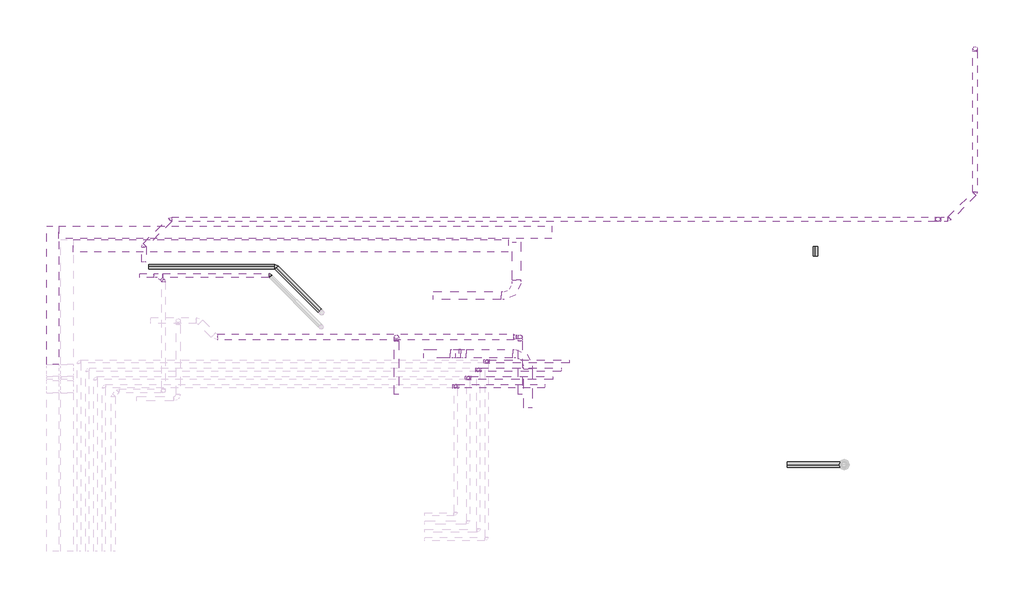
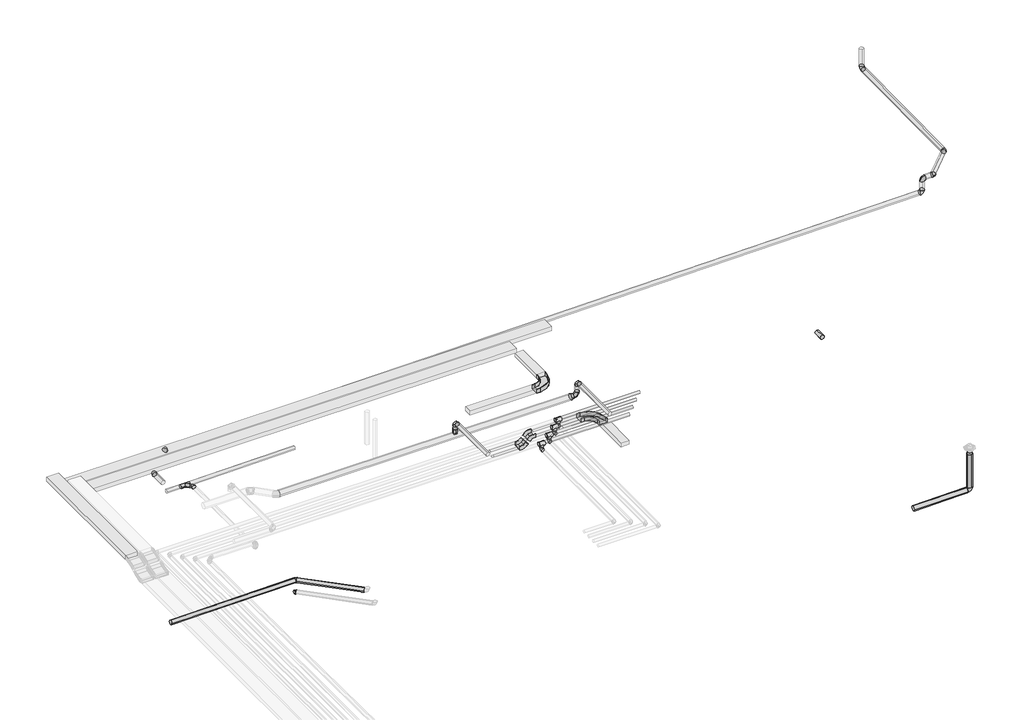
# One storey, part 4 of 4: 24 pipe segments, 21 pipe fittings, 9 cable carrier segments, 5 duct fittings, 5 duct segments, 4 cable carrier fittings.
"""IFC4 building model written with IfcOpenShell, lengths in millimetres."""

from ifc_helpers import new_model, si_unit, point, frame, frame_2d, origin, place, context, project, spatial, polyline, circle_curve, trimmed, segment, composite_curve, outline, extrude, transform, mapped, element, save
from components import m_codo_horizontal_de_canal_el_01cafb92, m_codo_vertical_exterior_de_canal_sf_2009c7b2, m_codo_vertical_interior_de_canal_sf_1a39cf6d, duct_fitting_dce10068, ext_4e2ed20d, m_codo_redondo_ext_1_d_85067ab4, pipe_fitting_4aa6ec84, pipe_fitting_7b861d32, pipe_fitting_67d104e7, pipe_fitting_3454c7e7, pipe_fitting_f9aaa2fa, pipe_fitting_5746b48a, pipe_fitting_3a68447e, pipe_fitting_b362e658, pipe_fitting_2586d89a, pipe_fitting_872c9969, t_soldadura_a_enchufe_ff252817

model = new_model("IFC4")

# Units and contexts
model_context = context("Model", 3, world=origin())
ifc_project = project(units=[si_unit("LENGTHUNIT", "METRE", prefix="MILLI")], contexts=[model_context])

# Site, building, storey
site = spatial("IfcSite", under=ifc_project)
building = spatial("IfcBuilding", under=site)
storey = spatial("IfcBuildingStorey", under=building, Name="Nivell 05 P05_PP", Elevation=26160.0)

# Cable carrier fittings
placement = place(None, origin())
m_codo_horizontal_de_canal_el_shape = m_codo_horizontal_de_canal_el_01cafb92(model_context)
element("IfcCableCarrierFitting", 1, ObjectType="M_Codo horizontal de canal : EL", at=placement, inside=storey, context=model_context, shape_type="MappedRepresentation", body=[
    mapped(m_codo_horizontal_de_canal_el_shape, transform((16260.4560007, 7993.9729991, 28970.0), x_axis=(1.0, 0.0, 0.0), y_axis=(0.0, 1.0, 0.0), z_axis=(0.0, 0.0, 1.0))),
])
element("IfcCableCarrierFitting", 2, ObjectType="M_Codo horizontal de canal : SF", at=placement, inside=storey, context=model_context, shape_type="MappedRepresentation", body=[
    mapped(m_codo_horizontal_de_canal_el_shape, transform((16540.4560007, 6585.5467988, 28970.0), x_axis=(0.0, 1.0, 0.0), y_axis=(-1.0, 0.0, 0.0), z_axis=(0.0, 0.0, 1.0))),
])
m_codo_vertical_exterior_de_canal_sf_shape = m_codo_vertical_exterior_de_canal_sf_2009c7b2(model_context)
element("IfcCableCarrierFitting", 3, ObjectType="M_Codo vertical exterior de canal : SF", at=placement, inside=storey, context=model_context, shape_type="MappedRepresentation", body=[
    mapped(m_codo_vertical_exterior_de_canal_sf_shape, transform((14940.4560007, 6585.5467988, 28970.0), x_axis=(-1.0, 0.0, 0.0), y_axis=(0.0, 0.0, -1.0), z_axis=(0.0, -1.0, 0.0))),
])
m_codo_vertical_interior_de_canal_sf_shape = m_codo_vertical_interior_de_canal_sf_1a39cf6d(model_context)
element("IfcCableCarrierFitting", 4, ObjectType="M_Codo vertical interior de canal : SF", at=placement, inside=storey, context=model_context, shape_type="MappedRepresentation", body=[
    mapped(m_codo_vertical_interior_de_canal_sf_shape, transform((14749.5371698, 6585.5467988, 28779.0811691), x_axis=(-0.707106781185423, 0.0, -0.7071067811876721), y_axis=(-0.7071067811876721, 0.0, 0.707106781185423), z_axis=(0.0, 1.0, 0.0))),
])

# Cable carrier segments
element("IfcCableCarrierSegment", 5, ObjectType="EL", at=placement, inside=storey, context=model_context, shape_type="SweptSolid", body=[
    extrude(outline(polyline([(17114.9442475, 9685.9660196), (17114.9442475, 9385.9660196), (5158.2381883, 9385.9660196), (5158.2381883, 9685.9660196), (17114.9442475, 9685.9660196)])), frame((0.0, 0.0, 29210.0), z_axis=(0.0, 0.0, 1.0), x_axis=(1.0, 0.0, 0.0)), (0.0, 0.0, 1.0), 100.0),
])
element("IfcCableCarrierSegment", 6, ObjectType="EL", at=placement, inside=storey, context=model_context, shape_type="SweptSolid", body=[
    extrude(outline(polyline([(5507.0671065, 9056.732053), (5507.0671065, 9356.732053), (16057.0671065, 9356.732053), (16057.0671065, 9056.732053), (5507.0671065, 9056.732053)])), frame((0.0, 0.0, 29210.0), z_axis=(0.0, 0.0, 1.0), x_axis=(1.0, 0.0, 0.0)), (0.0, 0.0, 1.0), 100.0),
])
element("IfcCableCarrierSegment", 7, ObjectType="EL", at=placement, inside=storey, context=model_context, shape_type="SweptSolid", body=[
    extrude(outline(polyline([(14245.4560007, 7893.9729991), (14245.4560007, 8093.9729991), (15885.4560007, 8093.9729991), (15885.4560007, 7893.9729991), (14245.4560007, 7893.9729991)])), frame((0.0, 0.0, 28920.0), z_axis=(0.0, 0.0, 1.0), x_axis=(1.0, 0.0, 0.0)), (0.0, 0.0, 1.0), 100.0),
])
element("IfcCableCarrierSegment", 8, ObjectType="EL", at=placement, inside=storey, context=model_context, shape_type="SweptSolid", body=[
    extrude(outline(polyline([(16360.4560007, 8368.9729991), (16160.4560007, 8368.9729991), (16160.4560007, 9293.9729991), (16360.4560007, 9293.9729991), (16360.4560007, 8368.9729991)])), frame((0.0, 0.0, 28920.0), z_axis=(0.0, 0.0, 1.0), x_axis=(1.0, 0.0, 0.0)), (0.0, 0.0, 1.0), 100.0),
])
element("IfcCableCarrierSegment", 9, ObjectType="EL", at=placement, inside=storey, context=model_context, shape_type="SweptSolid", body=[
    extrude(outline(polyline([(4858.2381883, 9685.9660196), (5158.2381883, 9685.9660196), (5158.2381883, 6318.3981673), (4858.2381883, 6318.3981673), (4858.2381883, 9685.9660196)])), frame((0.0, 0.0, 29410.0), z_axis=(0.0, 0.0, 1.0), x_axis=(1.0, 0.0, 0.0)), (0.0, 0.0, 1.0), 100.0),
])
element("IfcCableCarrierSegment", 10, ObjectType="SF", at=placement, inside=storey, context=model_context, shape_type="SweptSolid", body=[
    extrude(outline(polyline([(16165.4560007, 6685.5467988), (16165.4560007, 6485.5467988), (15040.3088145, 6485.5467988), (15040.3088145, 6685.5467988), (16165.4560007, 6685.5467988)])), frame((0.0, 0.0, 28920.0), z_axis=(0.0, 0.0, 1.0), x_axis=(1.0, 0.0, 0.0)), (0.0, 0.0, 1.0), 100.0),
])
element("IfcCableCarrierSegment", 11, ObjectType="SF", at=placement, inside=storey, context=model_context, shape_type="SweptSolid", body=[
    extrude(outline(polyline([(16640.4560007, 5265.5467988), (16440.4560007, 5265.5467988), (16440.4560007, 6210.5467988), (16640.4560007, 6210.5467988), (16640.4560007, 5265.5467988)])), frame((0.0, 0.0, 28920.0), z_axis=(0.0, 0.0, 1.0), x_axis=(1.0, 0.0, 0.0)), (0.0, 0.0, 1.0), 100.0),
])
element("IfcCableCarrierSegment", 12, ObjectType="SF", at=placement, inside=storey, context=model_context, shape_type="SweptSolid", body=[
    extrude(outline(polyline([(50.0000001, -11.8033989), (50.0000001, -211.8033989), (-50.0, -211.8033989), (-50.0, -11.8033989), (50.0000001, -11.8033989)])), frame((14820.1437715, 6697.3501977, 28849.6877708), z_axis=(0.7071067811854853, 0.0, 0.7071067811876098), x_axis=(0.7071067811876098, 0.0, -0.7071067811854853)), (0.0, 0.0, 1.0), 70.2943725),
])
element("IfcCableCarrierSegment", 13, ObjectType="SF", at=placement, inside=storey, context=model_context, shape_type="SweptSolid", body=[
    extrude(outline(polyline([(14649.6843561, 6685.5467988), (14649.6843561, 6485.5467988), (14009.5371698, 6485.5467988), (14009.5371698, 6685.5467988), (14649.6843561, 6685.5467988)])), frame((0.0, 0.0, 28729.0811691), z_axis=(0.0, 0.0, 1.0), x_axis=(1.0, 0.0, 0.0)), (0.0, 0.0, 1.0), 100.0),
])

# Duct fittings
duct_fitting_shape = duct_fitting_dce10068(model_context)
element("IfcDuctFitting", 14, ObjectType="M_Transición redonda - Ángulo : EXT_45 graus", at=placement, inside=storey, context=model_context, shape_type="MappedRepresentation", body=[
    mapped(duct_fitting_shape, transform((16250.5896993, 6992.2199701, 29265.0), x_axis=(-1.0, 0.0, 0.0), y_axis=(0.0, -1.0, 0.0), z_axis=(0.0, 0.0, 1.0))),
])
ext_shape = ext_4e2ed20d(model_context)
element("IfcDuctFitting", 15, ObjectType="M_Toma de derivación redonda : EXT", at=placement, inside=storey, context=model_context, shape_type="MappedRepresentation", body=[
    mapped(ext_shape, transform((13350.5896993, 6992.2199701, 29340.0), x_axis=(0.0, 0.0, 1.0), y_axis=(1.0, 0.0, 0.0), z_axis=(0.0, 1.0, 0.0))),
])
m_codo_redondo_ext_1_d_shape = m_codo_redondo_ext_1_d_85067ab4(model_context)
element("IfcDuctFitting", 16, ObjectType="M_Codo redondo : EXT_1 D", at=placement, inside=storey, context=model_context, shape_type="MappedRepresentation", body=[
    mapped(m_codo_redondo_ext_1_d_shape, transform((16350.5896993, 6992.2199701, 29610.0), x_axis=(0.0, 1.0, 0.0), y_axis=(0.0, 0.0, -1.0), z_axis=(-1.0, 0.0, 0.0))),
])
element("IfcDuctFitting", 17, ObjectType="M_Codo redondo : EXT_1 D", at=placement, inside=storey, context=model_context, shape_type="MappedRepresentation", body=[
    mapped(m_codo_redondo_ext_1_d_shape, transform((13350.5896993, 6992.2199701, 29610.0), x_axis=(0.0, 1.0, 0.0), y_axis=(0.0, 0.0, -1.0), z_axis=(-1.0, 0.0, 0.0))),
])
element("IfcDuctFitting", 18, ObjectType="M_Codo redondo : EXT_1 D", at=placement, inside=storey, context=model_context, shape_type="MappedRepresentation", body=[
    mapped(m_codo_redondo_ext_1_d_shape, transform((16350.5896993, 6992.2199701, 29265.0), x_axis=(0.0, 0.0, -1.0), y_axis=(-1.0, 0.0, 0.0), z_axis=(0.0, 1.0, 0.0))),
])

# Duct segments
element("IfcDuctSegment", 19, ObjectType="EXT_Acer Galvanitzat - Rígid", at=placement, inside=storey, context=model_context, shape_type="SweptSolid", body=[
    extrude(outline(composite_curve([segment(trimmed(circle_curve(frame_2d((6992.2199701, 29265.0)), 75.0), [point((7067.2199701, 29265.0))], [point((6992.2199701, 29190.0))], False, "CARTESIAN"), True, "CONTINUOUS"), segment(trimmed(circle_curve(frame_2d((6992.2199701, 29265.0)), 75.0), [point((6992.2199701, 29190.0))], [point((6917.2199701, 29265.0))], False, "CARTESIAN"), True, "CONTINUOUS"), segment(trimmed(circle_curve(frame_2d((6992.2199701, 29265.0)), 75.0), [point((6917.2199701, 29265.0))], [point((6992.2199701, 29340.0))], False, "CARTESIAN"), True, "CONTINUOUS"), segment(trimmed(circle_curve(frame_2d((6992.2199701, 29265.0)), 75.0), [point((6992.2199701, 29340.0))], [point((7067.2199701, 29265.0))], False, "CARTESIAN"), True, "CONTINUOUS")], self_intersect=False)), frame((9012.7217336, 0.0, 0.0), z_axis=(1.0, 0.0, 0.0), x_axis=(0.0, 1.0, 0.0)), (0.0, 0.0, 1.0), 7177.5126266),
])
element("IfcDuctSegment", 20, ObjectType="EXT_Acer Galvanitzat - Rígid", at=placement, inside=storey, context=model_context, shape_type="SweptSolid", body=[
    extrude(outline(composite_curve([segment(trimmed(circle_curve(frame_2d((29610.0, 13350.5896993)), 50.0), [point((29610.0, 13300.5896993))], [point((29560.0, 13350.5896993))], False, "CARTESIAN"), True, "CONTINUOUS"), segment(trimmed(circle_curve(frame_2d((29610.0, 13350.5896993)), 50.0), [point((29560.0, 13350.5896993))], [point((29610.0, 13400.5896993))], False, "CARTESIAN"), True, "CONTINUOUS"), segment(trimmed(circle_curve(frame_2d((29610.0, 13350.5896993)), 50.0), [point((29610.0, 13400.5896993))], [point((29660.0, 13350.5896993))], False, "CARTESIAN"), True, "CONTINUOUS"), segment(trimmed(circle_curve(frame_2d((29610.0, 13350.5896993)), 50.0), [point((29660.0, 13350.5896993))], [point((29610.0, 13300.5896993))], False, "CARTESIAN"), True, "CONTINUOUS")], self_intersect=False)), frame((0.0, 5590.7319202, 0.0), z_axis=(0.0, 1.0, 0.0), x_axis=(0.0, 0.0, 1.0)), (0.0, 0.0, 1.0), 1301.48805),
])
element("IfcDuctSegment", 21, ObjectType="EXT_Acer Galvanitzat - Rígid", at=placement, inside=storey, context=model_context, shape_type="SweptSolid", body=[
    extrude(outline(composite_curve([segment(trimmed(circle_curve(frame_2d((13350.5896993, 6992.2199701)), 50.0), [point((13300.5896993, 6992.2199701))], [point((13350.5896993, 7042.2199701))], False, "CARTESIAN"), True, "CONTINUOUS"), segment(trimmed(circle_curve(frame_2d((13350.5896993, 6992.2199701)), 50.0), [point((13350.5896993, 7042.2199701))], [point((13400.5896993, 6992.2199701))], False, "CARTESIAN"), True, "CONTINUOUS"), segment(trimmed(circle_curve(frame_2d((13350.5896993, 6992.2199701)), 50.0), [point((13400.5896993, 6992.2199701))], [point((13350.5896993, 6942.2199701))], False, "CARTESIAN"), True, "CONTINUOUS"), segment(trimmed(circle_curve(frame_2d((13350.5896993, 6992.2199701)), 50.0), [point((13350.5896993, 6942.2199701))], [point((13300.5896993, 6992.2199701))], False, "CARTESIAN"), True, "CONTINUOUS")], self_intersect=False)), frame((0.0, 0.0, 29441.6), z_axis=(0.0, 0.0, 1.0), x_axis=(1.0, 0.0, 0.0)), (0.0, 0.0, 1.0), 68.4),
])
element("IfcDuctSegment", 22, ObjectType="EXT_Acer Galvanitzat - Rígid", at=placement, inside=storey, context=model_context, shape_type="SweptSolid", body=[
    extrude(outline(composite_curve([segment(trimmed(circle_curve(frame_2d((29610.0, 16350.5896993)), 50.0), [point((29610.0, 16300.5896993))], [point((29560.0, 16350.5896993))], False, "CARTESIAN"), True, "CONTINUOUS"), segment(trimmed(circle_curve(frame_2d((29610.0, 16350.5896993)), 50.0), [point((29560.0, 16350.5896993))], [point((29610.0, 16400.5896993))], False, "CARTESIAN"), True, "CONTINUOUS"), segment(trimmed(circle_curve(frame_2d((29610.0, 16350.5896993)), 50.0), [point((29610.0, 16400.5896993))], [point((29660.0, 16350.5896993))], False, "CARTESIAN"), True, "CONTINUOUS"), segment(trimmed(circle_curve(frame_2d((29610.0, 16350.5896993)), 50.0), [point((29660.0, 16350.5896993))], [point((29610.0, 16300.5896993))], False, "CARTESIAN"), True, "CONTINUOUS")], self_intersect=False)), frame((0.0, 5590.7319202, 0.0), z_axis=(0.0, 1.0, 0.0), x_axis=(0.0, 0.0, 1.0)), (0.0, 0.0, 1.0), 1301.48805),
])
element("IfcDuctSegment", 23, ObjectType="EXT_Acer Galvanitzat - Rígid", at=placement, inside=storey, context=model_context, shape_type="SweptSolid", body=[
    extrude(outline(composite_curve([segment(trimmed(circle_curve(frame_2d((16350.5896993, 6992.2199701)), 50.0), [point((16400.5896993, 6992.2199701))], [point((16350.5896993, 6942.2199701))], False, "CARTESIAN"), True, "CONTINUOUS"), segment(trimmed(circle_curve(frame_2d((16350.5896993, 6992.2199701)), 50.0), [point((16350.5896993, 6942.2199701))], [point((16300.5896993, 6992.2199701))], False, "CARTESIAN"), True, "CONTINUOUS"), segment(trimmed(circle_curve(frame_2d((16350.5896993, 6992.2199701)), 50.0), [point((16300.5896993, 6992.2199701))], [point((16350.5896993, 7042.2199701))], False, "CARTESIAN"), True, "CONTINUOUS"), segment(trimmed(circle_curve(frame_2d((16350.5896993, 6992.2199701)), 50.0), [point((16350.5896993, 7042.2199701))], [point((16400.5896993, 6992.2199701))], False, "CARTESIAN"), True, "CONTINUOUS")], self_intersect=False)), frame((0.0, 0.0, 29365.0), z_axis=(0.0, 0.0, 1.0), x_axis=(1.0, 0.0, 0.0)), (0.0, 0.0, 1.0), 145.0),
])

# Pipe fittings
pipe_fitting_shape = pipe_fitting_4aa6ec84(model_context)
element("IfcPipeFitting", 24, ObjectType="M_Transición - Genérica : Estándar", at=placement, inside=storey, context=model_context, shape_type="MappedRepresentation", body=[
    mapped(pipe_fitting_shape, transform((24213.2535279, 3889.7377857, 26908.0), x_axis=(0.0, 0.0, -1.0), y_axis=(-1.0, 0.0, 0.0), z_axis=(0.0, 1.0, 0.0))),
])
pipe_fitting_2_shape = pipe_fitting_7b861d32(model_context)
element("IfcPipeFitting", 25, ObjectType="M_Codo - Genérico : Estándar", at=placement, inside=storey, context=model_context, shape_type="MappedRepresentation", body=[
    mapped(pipe_fitting_2_shape, transform((10278.5438771, 8480.6962959, 25364.6582407), x_axis=(-0.7070714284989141, 0.7070714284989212, -0.009999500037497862), y_axis=(-0.7070714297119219, -0.7071300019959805, -0.004141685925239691), z_axis=(-0.009999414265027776, 0.004141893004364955, 0.9999414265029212))),
])
pipe_fitting_3_shape = pipe_fitting_67d104e7(model_context)
element("IfcPipeFitting", 26, ObjectType="M_Codo - Genérico : Estándar", at=placement, inside=storey, context=model_context, shape_type="MappedRepresentation", body=[
    mapped(pipe_fitting_3_shape, transform((27389.4059114, 10484.655764, 29624.9769213), x_axis=(0.0, -0.9999500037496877, -0.009999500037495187), y_axis=(0.9999914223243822, -4.141685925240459e-05, 0.004141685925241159), z_axis=(-0.004141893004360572, -0.009999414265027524, 0.9999414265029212))),
])
element("IfcPipeFitting", 27, ObjectType="M_Codo - Genérico : Estándar", at=placement, inside=storey, context=model_context, shape_type="MappedRepresentation", body=[
    mapped(pipe_fitting_3_shape, transform((7870.0068596, 9850.5932442, 29076.0671248), x_axis=(0.7070714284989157, 0.7070714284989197, 0.009999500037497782), y_axis=(-0.7070714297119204, 0.7071300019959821, -0.004141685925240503), z_axis=(-0.009999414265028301, -0.004141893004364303, 0.9999414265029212))),
])
element("IfcPipeFitting", 28, ObjectType="M_Codo - Genérico : Estándar", at=placement, inside=storey, context=model_context, shape_type="MappedRepresentation", body=[
    mapped(pipe_fitting_3_shape, transform((7222.8096734, 9203.3949709, 29066.9143667), x_axis=(0.0, 0.9999500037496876, 0.009999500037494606), y_axis=(-0.9999914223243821, 4.141685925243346e-05, -0.004141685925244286), z_axis=(-0.004141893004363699, -0.009999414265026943, 0.9999414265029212))),
])
element("IfcPipeFitting", 29, ObjectType="M_Codo - Genérico : Estándar", at=placement, inside=storey, context=model_context, shape_type="MappedRepresentation", body=[
    mapped(pipe_fitting_3_shape, transform((10418.5757792, 8697.1771083, 25494.2175715), x_axis=(0.9999500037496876, 0.0, 0.009999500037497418), y_axis=(4.141685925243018e-05, 0.9999914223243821, -0.004141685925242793), z_axis=(-0.009999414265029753, 0.004141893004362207, 0.9999414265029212))),
])
pipe_fitting_4_shape = pipe_fitting_3454c7e7(model_context)
element("IfcPipeFitting", 30, ObjectType="M_Codo - Genérico : Estándar", at=placement, inside=storey, context=model_context, shape_type="MappedRepresentation", body=[
    mapped(pipe_fitting_4_shape, transform((27389.4059114, 13986.9636366, 29660.0), x_axis=(0.0, 0.0, -1.0), y_axis=(0.0, 1.0, 0.0), z_axis=(1.0, 0.0, 0.0))),
])
element("IfcPipeFitting", 31, ObjectType="M_Codo - Genérico : Estándar", at=placement, inside=storey, context=model_context, shape_type="MappedRepresentation", body=[
    mapped(pipe_fitting_4_shape, transform((26487.5503889, 9850.5932442, 29262.2425601), x_axis=(0.9999500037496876, 0.0, 0.00999950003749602), y_axis=(0.00999950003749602, 0.0, -0.9999500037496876), z_axis=(0.0, 1.0, 0.0))),
])
pipe_fitting_5_shape = pipe_fitting_f9aaa2fa(model_context)
element("IfcPipeFitting", 32, ObjectType="M_Codo - Genérico : Estándar", at=placement, inside=storey, context=model_context, shape_type="MappedRepresentation", body=[
    mapped(pipe_fitting_5_shape, transform((26755.352721, 9850.6025322, 29616.0030113), x_axis=(-0.7070713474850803, -0.7070713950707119, -0.010007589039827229), y_axis=(0.7070715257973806, -0.7071299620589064, 0.0041320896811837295), z_axis=(-0.009998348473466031, -0.004154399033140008, 0.9999413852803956))),
])
pipe_fitting_6_shape = pipe_fitting_5746b48a(model_context)
element("IfcPipeFitting", 33, ObjectType="M_Codo - Genérico : Estándar", at=placement, inside=storey, context=model_context, shape_type="MappedRepresentation", body=[
    mapped(pipe_fitting_6_shape, transform((26487.5503889, 9850.6025322, 29613.3252733), x_axis=(-0.9999500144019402, 0.0, -0.009998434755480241), y_axis=(-0.009998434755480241, 0.0, 0.9999500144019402), z_axis=(0.0, 1.0, 0.0))),
])
pipe_fitting_7_shape = pipe_fitting_3a68447e(model_context)
element("IfcPipeFitting", 34, ObjectType="M_Codo - Genérico : Estándar", at=placement, inside=storey, context=model_context, shape_type="MappedRepresentation", body=[
    mapped(pipe_fitting_7_shape, transform((14787.4352568, 5794.2427547, 29122.5), x_axis=(0.0, 0.0, -1.0), y_axis=(0.0, -1.0, 0.0), z_axis=(-1.0, 0.0, 0.0))),
])
element("IfcPipeFitting", 35, ObjectType="M_Codo - Genérico : Estándar", at=placement, inside=storey, context=model_context, shape_type="MappedRepresentation", body=[
    mapped(pipe_fitting_7_shape, transform((15087.4352568, 5994.2427547, 29122.5), x_axis=(0.0, 0.0, -1.0), y_axis=(0.0, -1.0, 0.0), z_axis=(-1.0, 0.0, 0.0))),
])
element("IfcPipeFitting", 36, ObjectType="M_Codo - Genérico : Estándar", at=placement, inside=storey, context=model_context, shape_type="MappedRepresentation", body=[
    mapped(pipe_fitting_7_shape, transform((15337.4352568, 6194.2427547, 29122.5), x_axis=(0.0, 0.0, -1.0), y_axis=(0.0, -1.0, 0.0), z_axis=(-1.0, 0.0, 0.0))),
])
element("IfcPipeFitting", 37, ObjectType="M_Codo - Genérico : Estándar", at=placement, inside=storey, context=model_context, shape_type="MappedRepresentation", body=[
    mapped(pipe_fitting_7_shape, transform((15537.4352568, 6394.2427547, 29122.5), x_axis=(0.0, 0.0, -1.0), y_axis=(0.0, -1.0, 0.0), z_axis=(-1.0, 0.0, 0.0))),
])
pipe_fitting_8_shape = pipe_fitting_b362e658(model_context)
element("IfcPipeFitting", 38, ObjectType="M_Codo - Genérico : Estándar", at=placement, inside=storey, context=model_context, shape_type="MappedRepresentation", body=[
    mapped(pipe_fitting_8_shape, transform((24213.2529339, 3889.7374038, 25940.0), x_axis=(-8.398758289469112e-06, -5.3992608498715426e-06, -0.9999999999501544), y_axis=(-0.9999999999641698, 1.0589656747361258e-06, 8.398752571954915e-06), z_axis=(1.0589203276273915e-06, 0.9999999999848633, -5.399269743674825e-06))),
])
pipe_fitting_9_shape = pipe_fitting_2586d89a(model_context)
element("IfcPipeFitting", 39, ObjectType="M_Codo - Genérico : Estándar", at=placement, inside=storey, context=model_context, shape_type="MappedRepresentation", body=[
    mapped(pipe_fitting_9_shape, transform((7694.7851552, 8352.4015426, 29089.3520633), x_axis=(-1.0272484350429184e-06, 0.9999500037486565, -0.009999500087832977), y_axis=(-0.9999914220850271, -4.2444624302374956e-05, -0.004141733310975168), z_axis=(-0.004141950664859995, 0.009999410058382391, 0.9999414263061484))),
])
pipe_fitting_10_shape = pipe_fitting_872c9969(model_context)
element("IfcPipeFitting", 40, ObjectType="M_Te - Genérica : Estándar", at=placement, inside=storey, context=model_context, shape_type="MappedRepresentation", body=[
    mapped(pipe_fitting_10_shape, transform((7566.4895317, 8480.6962959, 29087.5376996), x_axis=(0.9999500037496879, 0.0, 0.009999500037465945), y_axis=(4.141632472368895e-05, 0.9999914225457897, -0.004141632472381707), z_axis=(-0.009999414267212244, 0.004141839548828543, 0.999941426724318))),
])
t_soldadura_a_enchufe_shape = t_soldadura_a_enchufe_ff252817(model_context)
element("IfcPipeFitting", 41, ObjectType="T-Soldadura a enchufe : Estándar", at=placement, inside=storey, context=model_context, shape_type="MappedRepresentation", body=[
    mapped(t_soldadura_a_enchufe_shape, transform((14787.4352568, 5794.2427547, 29272.5), x_axis=(-1.0, 0.0, 0.0), y_axis=(0.0, 0.0, 1.0), z_axis=(0.0, 1.0, 0.0))),
])
element("IfcPipeFitting", 42, ObjectType="T-Soldadura a enchufe : Estándar", at=placement, inside=storey, context=model_context, shape_type="MappedRepresentation", body=[
    mapped(t_soldadura_a_enchufe_shape, transform((15087.4352568, 5994.2427547, 29272.5), x_axis=(-1.0, 0.0, 0.0), y_axis=(0.0, 0.0, 1.0), z_axis=(0.0, 1.0, 0.0))),
])
element("IfcPipeFitting", 43, ObjectType="T-Soldadura a enchufe : Estándar", at=placement, inside=storey, context=model_context, shape_type="MappedRepresentation", body=[
    mapped(t_soldadura_a_enchufe_shape, transform((15337.4352568, 6194.2427547, 29272.5), x_axis=(-1.0, 0.0, 0.0), y_axis=(0.0, 0.0, 1.0), z_axis=(0.0, 1.0, 0.0))),
])
element("IfcPipeFitting", 44, ObjectType="T-Soldadura a enchufe : Estándar", at=placement, inside=storey, context=model_context, shape_type="MappedRepresentation", body=[
    mapped(t_soldadura_a_enchufe_shape, transform((15537.4352568, 6394.2427547, 29272.5), x_axis=(-1.0, 0.0, 0.0), y_axis=(0.0, 0.0, 1.0), z_axis=(0.0, 1.0, 0.0))),
])

# Pipe segments
element("IfcPipeSegment", 45, ObjectType="PVC_Baixant", at=placement, inside=storey, context=model_context, shape_type="SweptSolid", body=[
    extrude(outline(composite_curve([segment(trimmed(circle_curve(frame_2d((0.0, -62.5)), 62.5), [point((0.0, 0.0))], [point((62.5, -62.5))], False, "CARTESIAN"), True, "CONTINUOUS"), segment(trimmed(circle_curve(frame_2d((0.0, -62.5)), 62.5), [point((62.5, -62.5))], [point((0.0, -125.0))], False, "CARTESIAN"), True, "CONTINUOUS"), segment(trimmed(circle_curve(frame_2d((0.0, -62.5)), 62.5), [point((0.0, -125.0))], [point((-62.5, -62.5))], False, "CARTESIAN"), True, "CONTINUOUS"), segment(trimmed(circle_curve(frame_2d((0.0, -62.5)), 62.5), [point((-62.5, -62.5))], [point((0.0, 0.0))], False, "CARTESIAN"), True, "CONTINUOUS")], self_intersect=False)), frame((22830.5283854, 3952.2374749, 25926.1727545), z_axis=(0.9999500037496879, 0.0, 0.009999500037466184), x_axis=(0.009999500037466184, 0.0, -0.9999500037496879)), (0.0, 0.0, 1.0), 1312.2675703),
])
element("IfcPipeSegment", 46, ObjectType="PVC_Baixant", at=placement, inside=storey, context=model_context, shape_type="SweptSolid", body=[
    extrude(outline(composite_curve([segment(trimmed(circle_curve(frame_2d((24213.2535279, 3889.7377857)), 62.5), [point((24275.7535279, 3889.7377857))], [point((24213.2535279, 3827.2377857))], False, "CARTESIAN"), True, "CONTINUOUS"), segment(trimmed(circle_curve(frame_2d((24213.2535279, 3889.7377857)), 62.5), [point((24213.2535279, 3827.2377857))], [point((24150.7535279, 3889.7377857))], False, "CARTESIAN"), True, "CONTINUOUS"), segment(trimmed(circle_curve(frame_2d((24213.2535279, 3889.7377857)), 62.5), [point((24150.7535279, 3889.7377857))], [point((24213.2535279, 3952.2377857))], False, "CARTESIAN"), True, "CONTINUOUS"), segment(trimmed(circle_curve(frame_2d((24213.2535279, 3889.7377857)), 62.5), [point((24213.2535279, 3952.2377857))], [point((24275.7535279, 3889.7377857))], False, "CARTESIAN"), True, "CONTINUOUS")], self_intersect=False)), frame((0.0, 0.0, 26010.7261027), z_axis=(0.0, 0.0, 1.0), x_axis=(1.0, 0.0, 0.0)), (0.0, 0.0, 1.0), 864.7301473),
])
element("IfcPipeSegment", 47, ObjectType="PVC_Baixant", at=placement, inside=storey, context=model_context, shape_type="SweptSolid", body=[
    extrude(outline(composite_curve([segment(trimmed(circle_curve(frame_2d((27389.4059114, 13986.9636366)), 55.0), [point((27334.4059114, 13986.9636366))], [point((27389.4059114, 14041.9636366))], False, "CARTESIAN"), True, "CONTINUOUS"), segment(trimmed(circle_curve(frame_2d((27389.4059114, 13986.9636366)), 55.0), [point((27389.4059114, 14041.9636366))], [point((27444.4059114, 13986.9636366))], False, "CARTESIAN"), True, "CONTINUOUS"), segment(trimmed(circle_curve(frame_2d((27389.4059114, 13986.9636366)), 55.0), [point((27444.4059114, 13986.9636366))], [point((27389.4059114, 13931.9636366))], False, "CARTESIAN"), True, "CONTINUOUS"), segment(trimmed(circle_curve(frame_2d((27389.4059114, 13986.9636366)), 55.0), [point((27389.4059114, 13931.9636366))], [point((27334.4059114, 13986.9636366))], False, "CARTESIAN"), True, "CONTINUOUS")], self_intersect=False)), frame((0.0, 0.0, 29722.3112718), z_axis=(0.0, 0.0, 1.0), x_axis=(1.0, 0.0, 0.0)), (0.0, 0.0, 1.0), 437.6887282),
])
element("IfcPipeSegment", 48, ObjectType="PVC_Baixant", at=placement, inside=storey, context=model_context, shape_type="SweptSolid", body=[
    extrude(outline(composite_curve([segment(trimmed(circle_curve(frame_2d((0.0, -55.0)), 55.0), [point((-55.0, -55.0))], [point((0.0, 0.0))], False, "CARTESIAN"), True, "CONTINUOUS"), segment(trimmed(circle_curve(frame_2d((0.0, -55.0)), 55.0), [point((0.0, 0.0))], [point((55.0, -55.0))], False, "CARTESIAN"), True, "CONTINUOUS"), segment(trimmed(circle_curve(frame_2d((0.0, -55.0)), 55.0), [point((55.0, -55.0))], [point((0.0, -110.0))], False, "CARTESIAN"), True, "CONTINUOUS"), segment(trimmed(circle_curve(frame_2d((0.0, -55.0)), 55.0), [point((0.0, -110.0))], [point((-55.0, -55.0))], False, "CARTESIAN"), True, "CONTINUOUS")], self_intersect=False)), frame((27389.4059114, 10511.2724723, 29570.2403384), z_axis=(0.0, 0.9999500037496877, 0.009999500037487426), x_axis=(1.0, 0.0, 0.0)), (0.0, 0.0, 1.0), 3414.1036727),
])
element("IfcPipeSegment", 49, ObjectType="PVC_Baixant", at=placement, inside=storey, context=model_context, shape_type="SweptSolid", body=[
    extrude(outline(composite_curve([segment(trimmed(circle_curve(frame_2d((0.0, -55.0)), 55.0), [point((-54.997246, -54.4496102))], [point((0.5503898, -0.0027539))], False, "CARTESIAN"), True, "CONTINUOUS"), segment(trimmed(circle_curve(frame_2d((0.0, -55.0)), 55.0), [point((0.5503898, -0.0027539))], [point((54.997246, -55.5503898))], False, "CARTESIAN"), True, "CONTINUOUS"), segment(trimmed(circle_curve(frame_2d((0.0, -55.0)), 55.0), [point((54.997246, -55.5503898))], [point((-0.5503899, -109.9972461))], False, "CARTESIAN"), True, "CONTINUOUS"), segment(trimmed(circle_curve(frame_2d((0.0, -55.0)), 55.0), [point((-0.5503899, -109.9972461))], [point((-54.997246, -54.4496102))], False, "CARTESIAN"), True, "CONTINUOUS")], self_intersect=False)), frame((26773.7846855, 9869.8128666, 29561.2693976), z_axis=(0.7070713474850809, 0.7070713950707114, 0.010007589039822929), x_axis=(0.7071422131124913, -0.707000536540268, -0.010006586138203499)), (0.0, 0.0, 1.0), 844.5954746),
])
element("IfcPipeSegment", 50, ObjectType="PVC_Baixant", at=placement, inside=storey, context=model_context, shape_type="SweptSolid", body=[
    extrude(outline(composite_curve([segment(trimmed(circle_curve(frame_2d((0.0, -55.0)), 55.0), [point((0.0, 0.0))], [point((55.0, -55.0))], False, "CARTESIAN"), True, "CONTINUOUS"), segment(trimmed(circle_curve(frame_2d((0.0, -55.0)), 55.0), [point((55.0, -55.0))], [point((0.0, -110.0))], False, "CARTESIAN"), True, "CONTINUOUS"), segment(trimmed(circle_curve(frame_2d((0.0, -55.0)), 55.0), [point((0.0, -110.0))], [point((-55.0, -55.0))], False, "CARTESIAN"), True, "CONTINUOUS"), segment(trimmed(circle_curve(frame_2d((0.0, -55.0)), 55.0), [point((-55.0, -55.0))], [point((0.0, 0.0))], False, "CARTESIAN"), True, "CONTINUOUS")], self_intersect=False)), frame((7896.0735954, 9905.5932442, 29076.3277921), z_axis=(0.9999500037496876, 0.0, 0.009999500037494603), x_axis=(0.009999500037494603, 0.0, -0.9999500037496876)), (0.0, 0.0, 1.0), 18530.0950724),
])
element("IfcPipeSegment", 51, ObjectType="PVC_Baixant", at=placement, inside=storey, context=model_context, shape_type="SweptSolid", body=[
    extrude(outline(composite_curve([segment(trimmed(circle_curve(frame_2d((0.0, -55.0000001)), 55.0), [point((-54.9972505, -54.450056))], [point((0.549944, -0.0027495))], False, "CARTESIAN"), True, "CONTINUOUS"), segment(trimmed(circle_curve(frame_2d((0.0, -55.0000001)), 55.0), [point((0.549944, -0.0027495))], [point((54.9972505, -55.5499441))], False, "CARTESIAN"), True, "CONTINUOUS"), segment(trimmed(circle_curve(frame_2d((0.0, -55.0000001)), 55.0), [point((54.9972505, -55.5499441))], [point((-0.5499441, -109.9972505))], False, "CARTESIAN"), True, "CONTINUOUS"), segment(trimmed(circle_curve(frame_2d((0.0, -55.0000001)), 55.0), [point((-0.5499441, -109.9972505))], [point((-54.9972505, -54.450056))], False, "CARTESIAN"), True, "CONTINUOUS")], self_intersect=False)), frame((7241.2416391, 9222.6046755, 29012.1805332), z_axis=(0.7070707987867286, 0.707072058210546, 0.009999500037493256), x_axis=(0.7071427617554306, -0.707000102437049, -0.009998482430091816)), (0.0, 0.0, 1.0), 863.1854914),
])
element("IfcPipeSegment", 52, ObjectType="PVC_Baixant", at=placement, inside=storey, context=model_context, shape_type="SweptSolid", body=[
    extrude(outline(composite_curve([segment(trimmed(circle_curve(frame_2d((0.0, -55.0)), 55.0), [point((0.0, 0.0))], [point((55.0, -55.0))], False, "CARTESIAN"), True, "CONTINUOUS"), segment(trimmed(circle_curve(frame_2d((0.0, -55.0)), 55.0), [point((55.0, -55.0))], [point((0.0, -110.0))], False, "CARTESIAN"), True, "CONTINUOUS"), segment(trimmed(circle_curve(frame_2d((0.0, -55.0)), 55.0), [point((0.0, -110.0))], [point((-55.0, -55.0))], False, "CARTESIAN"), True, "CONTINUOUS"), segment(trimmed(circle_curve(frame_2d((0.0, -55.0)), 55.0), [point((-55.0, -55.0))], [point((0.0, 0.0))], False, "CARTESIAN"), True, "CONTINUOUS")], self_intersect=False)), frame((26549.8586125, 9905.6025322, 29613.9482891), z_axis=(0.9999500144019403, 0.0, 0.009998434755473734), x_axis=(0.009998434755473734, 0.0, -0.9999500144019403)), (0.0, 0.0, 1.0), 179.4363416),
])
element("IfcPipeSegment", 53, ObjectType="PVC_Baixant", at=placement, inside=storey, context=model_context, shape_type="SweptSolid", body=[
    extrude(outline(composite_curve([segment(trimmed(circle_curve(frame_2d((0.0, 55.0)), 55.0), [point((-55.0, 55.0))], [point((0.0, 110.0))], False, "CARTESIAN"), True, "CONTINUOUS"), segment(trimmed(circle_curve(frame_2d((0.0, 55.0)), 55.0), [point((0.0, 110.0))], [point((55.0, 55.0))], False, "CARTESIAN"), True, "CONTINUOUS"), segment(trimmed(circle_curve(frame_2d((0.0, 55.0)), 55.0), [point((55.0, 55.0))], [point((0.0, 0.0))], False, "CARTESIAN"), True, "CONTINUOUS"), segment(trimmed(circle_curve(frame_2d((0.0, 55.0)), 55.0), [point((0.0, 0.0))], [point((-55.0, 55.0))], False, "CARTESIAN"), True, "CONTINUOUS")], self_intersect=False)), frame((26487.5503889, 9795.5932442, 29324.5560876), z_axis=(0.0, 4.1014092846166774e-05, 0.9999999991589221), x_axis=(1.0, 0.0, 0.0)), (0.0, 0.0, 1.0), 226.4600963),
])
element("IfcPipeSegment", 54, ObjectType="PVC_Baixant", at=placement, inside=storey, context=model_context, shape_type="SweptSolid", body=[
    extrude(outline(composite_curve([segment(trimmed(circle_curve(frame_2d((0.0, -55.0)), 55.0), [point((-55.0, -55.0))], [point((0.0, 0.0))], False, "CARTESIAN"), True, "CONTINUOUS"), segment(trimmed(circle_curve(frame_2d((0.0, -55.0)), 55.0), [point((0.0, 0.0))], [point((55.0, -55.0))], False, "CARTESIAN"), True, "CONTINUOUS"), segment(trimmed(circle_curve(frame_2d((0.0, -55.0)), 55.0), [point((55.0, -55.0))], [point((0.0, -110.0000001))], False, "CARTESIAN"), True, "CONTINUOUS"), segment(trimmed(circle_curve(frame_2d((0.0, -55.0)), 55.0), [point((0.0, -110.0000001))], [point((-55.0, -55.0))], False, "CARTESIAN"), True, "CONTINUOUS")], self_intersect=False)), frame((7222.8096734, 8816.1056185, 29008.0387232), z_axis=(0.0, 0.999950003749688, 0.009999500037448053), x_axis=(1.0, 0.0, 0.0)), (0.0, 0.0, 1.0), 361.7906773),
])
element("IfcPipeSegment", 55, ObjectType="PVC_Baixant", at=placement, inside=storey, context=model_context, shape_type="SweptSolid", body=[
    extrude(outline(composite_curve([segment(trimmed(circle_curve(frame_2d((0.0, -55.0)), 55.0), [point((54.9972505, -54.450055))], [point((0.549945, -109.9972505))], False, "CARTESIAN"), True, "CONTINUOUS"), segment(trimmed(circle_curve(frame_2d((0.0, -55.0)), 55.0), [point((0.549945, -109.9972505))], [point((-54.9972505, -55.549945))], False, "CARTESIAN"), True, "CONTINUOUS"), segment(trimmed(circle_curve(frame_2d((0.0, -55.0)), 55.0), [point((-54.9972505, -55.549945))], [point((-0.549945, -0.0027495))], False, "CARTESIAN"), True, "CONTINUOUS"), segment(trimmed(circle_curve(frame_2d((0.0, -55.0)), 55.0), [point((-0.549945, -0.0027495))], [point((54.9972505, -54.450055))], False, "CARTESIAN"), True, "CONTINUOUS")], self_intersect=False)), frame((10437.0077448, 8679.5228824, 25549.4727397), z_axis=(0.7070714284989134, -0.707071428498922, 0.009999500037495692), x_axis=(0.7071421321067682, 0.7070007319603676, -0.009998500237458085)), (0.0, 0.0, 1.0), 1489.9424458),
])
element("IfcPipeSegment", 56, ObjectType="PVC_Baixant", at=placement, inside=storey, context=model_context, shape_type="SweptSolid", body=[
    extrude(outline(composite_curve([segment(trimmed(circle_curve(frame_2d((0.0, -55.0)), 55.0), [point((0.0, 0.0))], [point((55.0, -55.0))], False, "CARTESIAN"), True, "CONTINUOUS"), segment(trimmed(circle_curve(frame_2d((0.0, -55.0)), 55.0), [point((55.0, -55.0))], [point((0.0, -110.0))], False, "CARTESIAN"), True, "CONTINUOUS"), segment(trimmed(circle_curve(frame_2d((0.0, -55.0)), 55.0), [point((0.0, -110.0))], [point((-55.0, -55.0))], False, "CARTESIAN"), True, "CONTINUOUS"), segment(trimmed(circle_curve(frame_2d((0.0, -55.0)), 55.0), [point((-55.0, -55.0))], [point((0.0, 0.0))], False, "CARTESIAN"), True, "CONTINUOUS")], self_intersect=False)), frame((7340.3329326, 8752.1771083, 25463.4351431), z_axis=(0.9999500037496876, 0.0, 0.009999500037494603), x_axis=(0.009999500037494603, 0.0, -0.9999500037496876)), (0.0, 0.0, 1.0), 3052.3287157),
])
element("IfcPipeSegment", 57, ObjectType="PPR_CLI_Aquatherm Blue Pipe", at=placement, inside=storey, context=model_context, shape_type="SweptSolid", body=[
    extrude(outline(composite_curve([segment(trimmed(circle_curve(frame_2d((5794.2427547, 29272.5)), 37.5), [point((5756.7427547, 29272.5))], [point((5794.2427547, 29310.0))], False, "CARTESIAN"), True, "CONTINUOUS"), segment(trimmed(circle_curve(frame_2d((5794.2427547, 29272.5)), 37.5), [point((5794.2427547, 29310.0))], [point((5831.7427547, 29272.5))], False, "CARTESIAN"), True, "CONTINUOUS"), segment(trimmed(circle_curve(frame_2d((5794.2427547, 29272.5)), 37.5), [point((5831.7427547, 29272.5))], [point((5794.2427547, 29235.0))], False, "CARTESIAN"), True, "CONTINUOUS"), segment(trimmed(circle_curve(frame_2d((5794.2427547, 29272.5)), 37.5), [point((5794.2427547, 29235.0))], [point((5756.7427547, 29272.5))], False, "CARTESIAN"), True, "CONTINUOUS")], self_intersect=False)), frame((14825.9352568, 0.0, 0.0), z_axis=(1.0, 0.0, 0.0), x_axis=(0.0, 1.0, 0.0)), (0.0, 0.0, 1.0), 2116.3840359),
])
element("IfcPipeSegment", 58, ObjectType="PPR_CLI_Aquatherm Blue Pipe", at=placement, inside=storey, context=model_context, shape_type="SweptSolid", body=[
    extrude(outline(composite_curve([segment(trimmed(circle_curve(frame_2d((5994.2427547, 29272.5)), 37.5), [point((5956.7427547, 29272.5))], [point((5994.2427547, 29310.0))], False, "CARTESIAN"), True, "CONTINUOUS"), segment(trimmed(circle_curve(frame_2d((5994.2427547, 29272.5)), 37.5), [point((5994.2427547, 29310.0))], [point((6031.7427547, 29272.5))], False, "CARTESIAN"), True, "CONTINUOUS"), segment(trimmed(circle_curve(frame_2d((5994.2427547, 29272.5)), 37.5), [point((6031.7427547, 29272.5))], [point((5994.2427547, 29235.0))], False, "CARTESIAN"), True, "CONTINUOUS"), segment(trimmed(circle_curve(frame_2d((5994.2427547, 29272.5)), 37.5), [point((5994.2427547, 29235.0))], [point((5956.7427547, 29272.5))], False, "CARTESIAN"), True, "CONTINUOUS")], self_intersect=False)), frame((15125.9352568, 0.0, 0.0), z_axis=(1.0, 0.0, 0.0), x_axis=(0.0, 1.0, 0.0)), (0.0, 0.0, 1.0), 2016.3840359),
])
element("IfcPipeSegment", 59, ObjectType="PPR_CLI_Aquatherm Blue Pipe", at=placement, inside=storey, context=model_context, shape_type="SweptSolid", body=[
    extrude(outline(composite_curve([segment(trimmed(circle_curve(frame_2d((6194.2427547, 29272.5)), 37.5), [point((6156.7427547, 29272.5))], [point((6194.2427547, 29310.0))], False, "CARTESIAN"), True, "CONTINUOUS"), segment(trimmed(circle_curve(frame_2d((6194.2427547, 29272.5)), 37.5), [point((6194.2427547, 29310.0))], [point((6231.7427547, 29272.5))], False, "CARTESIAN"), True, "CONTINUOUS"), segment(trimmed(circle_curve(frame_2d((6194.2427547, 29272.5)), 37.5), [point((6231.7427547, 29272.5))], [point((6194.2427547, 29235.0))], False, "CARTESIAN"), True, "CONTINUOUS"), segment(trimmed(circle_curve(frame_2d((6194.2427547, 29272.5)), 37.5), [point((6194.2427547, 29235.0))], [point((6156.7427547, 29272.5))], False, "CARTESIAN"), True, "CONTINUOUS")], self_intersect=False)), frame((15375.9352568, 0.0, 0.0), z_axis=(1.0, 0.0, 0.0), x_axis=(0.0, 1.0, 0.0)), (0.0, 0.0, 1.0), 1966.3840359),
])
element("IfcPipeSegment", 60, ObjectType="PPR_CLI_Aquatherm Blue Pipe", at=placement, inside=storey, context=model_context, shape_type="SweptSolid", body=[
    extrude(outline(composite_curve([segment(trimmed(circle_curve(frame_2d((6394.2427547, 29272.5)), 37.5), [point((6356.7427547, 29272.5))], [point((6394.2427547, 29310.0))], False, "CARTESIAN"), True, "CONTINUOUS"), segment(trimmed(circle_curve(frame_2d((6394.2427547, 29272.5)), 37.5), [point((6394.2427547, 29310.0))], [point((6431.7427547, 29272.5))], False, "CARTESIAN"), True, "CONTINUOUS"), segment(trimmed(circle_curve(frame_2d((6394.2427547, 29272.5)), 37.5), [point((6431.7427547, 29272.5))], [point((6394.2427547, 29235.0))], False, "CARTESIAN"), True, "CONTINUOUS"), segment(trimmed(circle_curve(frame_2d((6394.2427547, 29272.5)), 37.5), [point((6394.2427547, 29235.0))], [point((6356.7427547, 29272.5))], False, "CARTESIAN"), True, "CONTINUOUS")], self_intersect=False)), frame((15575.9352568, 0.0, 0.0), z_axis=(1.0, 0.0, 0.0), x_axis=(0.0, 1.0, 0.0)), (0.0, 0.0, 1.0), 1966.3840359),
])
element("IfcPipeSegment", 61, ObjectType="PPR_CLI_Aquatherm Blue Pipe", at=placement, inside=storey, context=model_context, shape_type="SweptSolid", body=[
    extrude(outline(composite_curve([segment(trimmed(circle_curve(frame_2d((14787.4352568, 5794.2427547)), 37.5), [point((14824.9352568, 5794.2427547))], [point((14787.4352568, 5756.7427547))], False, "CARTESIAN"), True, "CONTINUOUS"), segment(trimmed(circle_curve(frame_2d((14787.4352568, 5794.2427547)), 37.5), [point((14787.4352568, 5756.7427547))], [point((14749.9352568, 5794.2427547))], False, "CARTESIAN"), True, "CONTINUOUS"), segment(trimmed(circle_curve(frame_2d((14787.4352568, 5794.2427547)), 37.5), [point((14749.9352568, 5794.2427547))], [point((14787.4352568, 5831.7427547))], False, "CARTESIAN"), True, "CONTINUOUS"), segment(trimmed(circle_curve(frame_2d((14787.4352568, 5794.2427547)), 37.5), [point((14787.4352568, 5831.7427547))], [point((14824.9352568, 5794.2427547))], False, "CARTESIAN"), True, "CONTINUOUS")], self_intersect=False)), frame((0.0, 0.0, 29167.9375), z_axis=(0.0, 0.0, 1.0), x_axis=(1.0, 0.0, 0.0)), (0.0, 0.0, 1.0), 66.0625),
])
element("IfcPipeSegment", 62, ObjectType="PPR_CLI_Aquatherm Blue Pipe", at=placement, inside=storey, context=model_context, shape_type="SweptSolid", body=[
    extrude(outline(composite_curve([segment(trimmed(circle_curve(frame_2d((15087.4352568, 5994.2427547)), 37.5), [point((15124.9352568, 5994.2427547))], [point((15087.4352568, 5956.7427547))], False, "CARTESIAN"), True, "CONTINUOUS"), segment(trimmed(circle_curve(frame_2d((15087.4352568, 5994.2427547)), 37.5), [point((15087.4352568, 5956.7427547))], [point((15049.9352568, 5994.2427547))], False, "CARTESIAN"), True, "CONTINUOUS"), segment(trimmed(circle_curve(frame_2d((15087.4352568, 5994.2427547)), 37.5), [point((15049.9352568, 5994.2427547))], [point((15087.4352568, 6031.7427547))], False, "CARTESIAN"), True, "CONTINUOUS"), segment(trimmed(circle_curve(frame_2d((15087.4352568, 5994.2427547)), 37.5), [point((15087.4352568, 6031.7427547))], [point((15124.9352568, 5994.2427547))], False, "CARTESIAN"), True, "CONTINUOUS")], self_intersect=False)), frame((0.0, 0.0, 29167.9375), z_axis=(0.0, 0.0, 1.0), x_axis=(1.0, 0.0, 0.0)), (0.0, 0.0, 1.0), 66.0625),
])
element("IfcPipeSegment", 63, ObjectType="PPR_CLI_Aquatherm Blue Pipe", at=placement, inside=storey, context=model_context, shape_type="SweptSolid", body=[
    extrude(outline(composite_curve([segment(trimmed(circle_curve(frame_2d((15337.4352568, 6194.2427547)), 37.5), [point((15374.9352568, 6194.2427547))], [point((15337.4352568, 6156.7427547))], False, "CARTESIAN"), True, "CONTINUOUS"), segment(trimmed(circle_curve(frame_2d((15337.4352568, 6194.2427547)), 37.5), [point((15337.4352568, 6156.7427547))], [point((15299.9352568, 6194.2427547))], False, "CARTESIAN"), True, "CONTINUOUS"), segment(trimmed(circle_curve(frame_2d((15337.4352568, 6194.2427547)), 37.5), [point((15299.9352568, 6194.2427547))], [point((15337.4352568, 6231.7427547))], False, "CARTESIAN"), True, "CONTINUOUS"), segment(trimmed(circle_curve(frame_2d((15337.4352568, 6194.2427547)), 37.5), [point((15337.4352568, 6231.7427547))], [point((15374.9352568, 6194.2427547))], False, "CARTESIAN"), True, "CONTINUOUS")], self_intersect=False)), frame((0.0, 0.0, 29167.9375), z_axis=(0.0, 0.0, 1.0), x_axis=(1.0, 0.0, 0.0)), (0.0, 0.0, 1.0), 66.0625),
])
element("IfcPipeSegment", 64, ObjectType="PPR_CLI_Aquatherm Blue Pipe", at=placement, inside=storey, context=model_context, shape_type="SweptSolid", body=[
    extrude(outline(composite_curve([segment(trimmed(circle_curve(frame_2d((15537.4352568, 6394.2427547)), 37.5), [point((15574.9352568, 6394.2427547))], [point((15537.4352568, 6356.7427547))], False, "CARTESIAN"), True, "CONTINUOUS"), segment(trimmed(circle_curve(frame_2d((15537.4352568, 6394.2427547)), 37.5), [point((15537.4352568, 6356.7427547))], [point((15499.9352568, 6394.2427547))], False, "CARTESIAN"), True, "CONTINUOUS"), segment(trimmed(circle_curve(frame_2d((15537.4352568, 6394.2427547)), 37.5), [point((15499.9352568, 6394.2427547))], [point((15537.4352568, 6431.7427547))], False, "CARTESIAN"), True, "CONTINUOUS"), segment(trimmed(circle_curve(frame_2d((15537.4352568, 6394.2427547)), 37.5), [point((15537.4352568, 6431.7427547))], [point((15574.9352568, 6394.2427547))], False, "CARTESIAN"), True, "CONTINUOUS")], self_intersect=False)), frame((0.0, 0.0, 29167.9375), z_axis=(0.0, 0.0, 1.0), x_axis=(1.0, 0.0, 0.0)), (0.0, 0.0, 1.0), 66.0625),
])
element("IfcPipeSegment", 65, ObjectType="AN_CI", at=placement, inside=storey, context=model_context, shape_type="SweptSolid", body=[
    extrude(outline(composite_curve([segment(trimmed(circle_curve(frame_2d((0.0, 50.8)), 50.8), [point((0.0, 101.5999999))], [point((50.8, 50.8))], False, "CARTESIAN"), True, "CONTINUOUS"), segment(trimmed(circle_curve(frame_2d((0.0, 50.8)), 50.8), [point((50.8, 50.8))], [point((0.0, 0.0))], False, "CARTESIAN"), True, "CONTINUOUS"), segment(trimmed(circle_curve(frame_2d((0.0, 50.8)), 50.8), [point((0.0, 0.0))], [point((-50.8, 50.8))], False, "CARTESIAN"), True, "CONTINUOUS"), segment(trimmed(circle_curve(frame_2d((0.0, 50.8)), 50.8), [point((-50.8, 50.8))], [point((0.0, 101.5999999))], False, "CARTESIAN"), True, "CONTINUOUS")], self_intersect=False)), frame((23464.1193187, 8952.9286663, 27060.0), z_axis=(-2.0856058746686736e-05, 0.9999999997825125, 0.0), x_axis=(0.0, 0.0, 1.0)), (0.0, 0.0, 1.0), 227.6125),
])
element("IfcPipeSegment", 66, ObjectType="PVC_Baixant", at=placement, inside=storey, context=model_context, shape_type="SweptSolid", body=[
    extrude(outline(composite_curve([segment(trimmed(circle_curve(frame_2d((0.0, -44.9999999)), 45.0), [point((44.9977502, -44.5500367))], [point((0.4499631, -89.9977503))], False, "CARTESIAN"), True, "CONTINUOUS"), segment(trimmed(circle_curve(frame_2d((0.0, -44.9999999)), 45.0), [point((0.4499631, -89.9977503))], [point((-44.9977504, -45.4499631))], False, "CARTESIAN"), True, "CONTINUOUS"), segment(trimmed(circle_curve(frame_2d((0.0, -44.9999999)), 45.0), [point((-44.9977504, -45.4499631))], [point((-0.4499633, -0.0022497))], False, "CARTESIAN"), True, "CONTINUOUS"), segment(trimmed(circle_curve(frame_2d((0.0, -44.9999999)), 45.0), [point((-0.4499633, -0.0022497))], [point((44.9977502, -44.5500367))], False, "CARTESIAN"), True, "CONTINUOUS")], self_intersect=False)), frame((7645.0810897, 8402.7410393, 29133.6446486), z_axis=(0.7070778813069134, -0.7070649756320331, 0.009999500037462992), x_axis=(0.7071356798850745, 0.7070071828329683, -0.009998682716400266)), (0.0, 0.0, 1.0), 48.5964462),
])
element("IfcPipeSegment", 67, ObjectType="PVC_Baixant", at=placement, inside=storey, context=model_context, shape_type="SweptSolid", body=[
    extrude(outline(composite_curve([segment(trimmed(circle_curve(frame_2d((0.0, 45.0)), 45.0), [point((0.0, 0.0))], [point((-44.9999999, 45.0))], False, "CARTESIAN"), True, "CONTINUOUS"), segment(trimmed(circle_curve(frame_2d((0.0, 45.0)), 45.0), [point((-44.9999999, 45.0))], [point((0.0, 90.0))], False, "CARTESIAN"), True, "CONTINUOUS"), segment(trimmed(circle_curve(frame_2d((0.0, 45.0)), 45.0), [point((0.0, 90.0))], [point((45.0, 45.0))], False, "CARTESIAN"), True, "CONTINUOUS"), segment(trimmed(circle_curve(frame_2d((0.0, 45.0)), 45.0), [point((45.0, 45.0))], [point((0.0, 0.0))], False, "CARTESIAN"), True, "CONTINUOUS")], self_intersect=False)), frame((7677.6348049, 8435.6962959, 29088.6491524), z_axis=(0.9999500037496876, 0.0, 0.009999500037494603), x_axis=(0.009999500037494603, 0.0, -0.9999500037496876)), (0.0, 0.0, 1.0), 2579.3407724),
])
element("IfcPipeSegment", 68, ObjectType="PVC_Baixant", at=placement, inside=storey, context=model_context, shape_type="SweptSolid", body=[
    extrude(outline(composite_curve([segment(trimmed(circle_curve(frame_2d((0.0, -45.0)), 45.0), [point((0.0, 0.0))], [point((45.0, -45.0))], False, "CARTESIAN"), True, "CONTINUOUS"), segment(trimmed(circle_curve(frame_2d((0.0, -45.0)), 45.0), [point((45.0, -45.0))], [point((0.0, -90.0))], False, "CARTESIAN"), True, "CONTINUOUS"), segment(trimmed(circle_curve(frame_2d((0.0, -45.0)), 45.0), [point((0.0, -90.0))], [point((-45.0, -45.0))], False, "CARTESIAN"), True, "CONTINUOUS"), segment(trimmed(circle_curve(frame_2d((0.0, -45.0)), 45.0), [point((-45.0, -45.0))], [point((0.0, 0.0))], False, "CARTESIAN"), True, "CONTINUOUS")], self_intersect=False)), frame((7115.3612572, 8525.6962959, 29083.0264169), z_axis=(0.9999500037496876, 0.0, 0.00999950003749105), x_axis=(0.00999950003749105, 0.0, -0.9999500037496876)), (0.0, 0.0, 1.0), 340.0),
])

save(model, "model.ifc")
